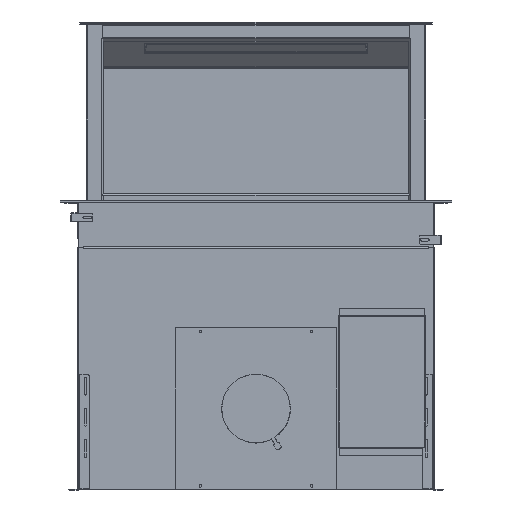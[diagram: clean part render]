
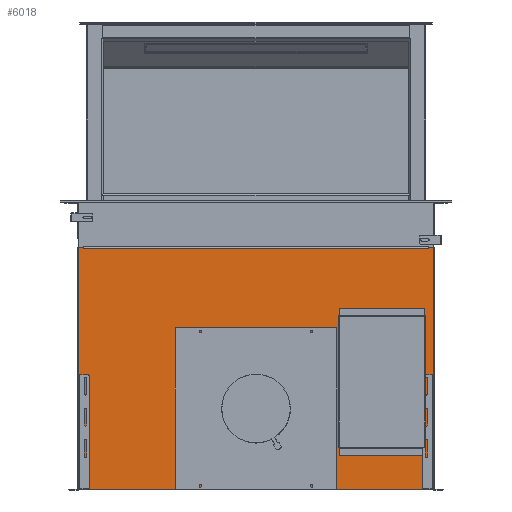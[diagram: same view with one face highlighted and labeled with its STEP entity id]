
A CAD part, top view. The second image highlights one B-rep face of the part: STEP entity #6018.
In plain terms, the highlighted planar face has unit normal (0, 0, 1).
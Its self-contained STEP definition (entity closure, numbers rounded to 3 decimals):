
#5237=DIRECTION('',(1.,0.,0.));
#5238=VECTOR('',#5237,11.85);
#5239=CARTESIAN_POINT('',(-399.3,272.95,0.));
#5240=LINE('',#5239,#5238);
#5241=DIRECTION('',(0.,1.,0.));
#5242=VECTOR('',#5241,1.6);
#5243=CARTESIAN_POINT('',(-387.45,271.35,0.));
#5244=LINE('',#5243,#5242);
#5245=DIRECTION('',(0.,1.,0.));
#5246=VECTOR('',#5245,1.6);
#5247=CARTESIAN_POINT('',(387.45,271.35,0.));
#5248=LINE('',#5247,#5246);
#5249=DIRECTION('',(1.,0.,0.));
#5250=VECTOR('',#5249,11.85);
#5251=CARTESIAN_POINT('',(387.45,272.95,0.));
#5252=LINE('',#5251,#5250);
#5253=DIRECTION('',(0.,1.,0.));
#5254=VECTOR('',#5253,327.);
#5255=CARTESIAN_POINT('',(-161.5,-253.55,0.));
#5256=LINE('',#5255,#5254);
#5257=DIRECTION('',(-1.,0.,0.));
#5258=VECTOR('',#5257,321.);
#5259=CARTESIAN_POINT('',(160.5,-254.55,0.));
#5260=LINE('',#5259,#5258);
#5261=DIRECTION('',(0.,-1.,0.));
#5262=VECTOR('',#5261,327.);
#5263=CARTESIAN_POINT('',(161.5,73.45,0.));
#5264=LINE('',#5263,#5262);
#5265=DIRECTION('',(1.,0.,0.));
#5266=VECTOR('',#5265,321.);
#5267=CARTESIAN_POINT('',(-160.5,74.45,0.));
#5268=LINE('',#5267,#5266);
#5386=DIRECTION('',(0.,1.,0.));
#5387=VECTOR('',#5386,544.3);
#5388=CARTESIAN_POINT('',(-399.3,-271.35,0.));
#5389=LINE('',#5388,#5387);
#5421=DIRECTION('',(-1.,0.,0.));
#5422=VECTOR('',#5421,798.6);
#5423=CARTESIAN_POINT('',(399.3,-271.35,0.));
#5424=LINE('',#5423,#5422);
#5484=DIRECTION('',(0.,-1.,0.));
#5485=VECTOR('',#5484,544.3);
#5486=CARTESIAN_POINT('',(399.3,272.95,0.));
#5487=LINE('',#5486,#5485);
#5655=DIRECTION('',(1.,0.,0.));
#5656=VECTOR('',#5655,774.9);
#5657=CARTESIAN_POINT('',(-387.45,271.35,0.));
#5658=LINE('',#5657,#5656);
#5753=CARTESIAN_POINT('',(160.5,-253.55,0.));
#5754=DIRECTION('',(0.,0.,-1.));
#5755=DIRECTION('',(1.,0.,0.));
#5756=AXIS2_PLACEMENT_3D('',#5753,#5754,#5755);
#5771=CARTESIAN_POINT('',(160.5,73.45,0.));
#5772=DIRECTION('',(0.,0.,-1.));
#5773=DIRECTION('',(0.,1.,0.));
#5774=AXIS2_PLACEMENT_3D('',#5771,#5772,#5773);
#5789=CARTESIAN_POINT('',(-160.5,73.45,0.));
#5790=DIRECTION('',(0.,0.,-1.));
#5791=DIRECTION('',(-1.,0.,0.));
#5792=AXIS2_PLACEMENT_3D('',#5789,#5790,#5791);
#5807=CARTESIAN_POINT('',(-160.5,-253.55,0.));
#5808=DIRECTION('',(0.,0.,-1.));
#5809=DIRECTION('',(0.,-1.,0.));
#5810=AXIS2_PLACEMENT_3D('',#5807,#5808,#5809);
#5825=CARTESIAN_POINT('',(399.3,272.95,0.));
#5826=VERTEX_POINT('',#5825);
#5843=CARTESIAN_POINT('',(-399.3,272.95,0.));
#5844=VERTEX_POINT('',#5843);
#5857=CARTESIAN_POINT('',(-399.3,-271.35,0.));
#5858=VERTEX_POINT('',#5857);
#5861=CARTESIAN_POINT('',(399.3,-271.35,0.));
#5862=VERTEX_POINT('',#5861);
#5889=CARTESIAN_POINT('',(161.5,-253.55,0.));
#5891=VERTEX_POINT('',#5889);
#5893=CARTESIAN_POINT('',(160.5,-254.55,0.));
#5895=VERTEX_POINT('',#5893);
#5897=CARTESIAN_POINT('',(-160.5,-254.55,0.));
#5899=VERTEX_POINT('',#5897);
#5901=CARTESIAN_POINT('',(-161.5,-253.55,0.));
#5903=VERTEX_POINT('',#5901);
#5905=CARTESIAN_POINT('',(-161.5,73.45,0.));
#5907=VERTEX_POINT('',#5905);
#5909=CARTESIAN_POINT('',(-160.5,74.45,0.));
#5911=VERTEX_POINT('',#5909);
#5913=CARTESIAN_POINT('',(160.5,74.45,0.));
#5915=VERTEX_POINT('',#5913);
#5917=CARTESIAN_POINT('',(161.5,73.45,0.));
#5919=VERTEX_POINT('',#5917);
#5937=CARTESIAN_POINT('',(387.45,271.35,0.));
#5938=CARTESIAN_POINT('',(387.45,272.95,0.));
#5939=VERTEX_POINT('',#5937);
#5940=VERTEX_POINT('',#5938);
#5945=CARTESIAN_POINT('',(-387.45,271.35,0.));
#5946=CARTESIAN_POINT('',(-387.45,272.95,0.));
#5947=VERTEX_POINT('',#5945);
#5948=VERTEX_POINT('',#5946);
#5977=CARTESIAN_POINT('',(0.,0.,0.));
#5978=DIRECTION('',(0.,0.,1.));
#5979=DIRECTION('',(1.,0.,0.));
#5980=AXIS2_PLACEMENT_3D('',#5977,#5978,#5979);
#5981=PLANE('',#5980);
#5983=ORIENTED_EDGE('',*,*,#5982,.T.);
#5985=ORIENTED_EDGE('',*,*,#5984,.F.);
#5987=ORIENTED_EDGE('',*,*,#5986,.T.);
#5989=ORIENTED_EDGE('',*,*,#5988,.T.);
#5991=ORIENTED_EDGE('',*,*,#5990,.T.);
#5993=ORIENTED_EDGE('',*,*,#5992,.T.);
#5995=ORIENTED_EDGE('',*,*,#5994,.T.);
#5997=ORIENTED_EDGE('',*,*,#5996,.T.);
#5998=EDGE_LOOP('',(#5983,#5985,#5987,#5989,#5991,#5993,#5995,#5997));
#5999=FACE_OUTER_BOUND('',#5998,.F.);
#6001=ORIENTED_EDGE('',*,*,#6000,.F.);
#6003=ORIENTED_EDGE('',*,*,#6002,.F.);
#6005=ORIENTED_EDGE('',*,*,#6004,.F.);
#6007=ORIENTED_EDGE('',*,*,#6006,.F.);
#6009=ORIENTED_EDGE('',*,*,#6008,.F.);
#6011=ORIENTED_EDGE('',*,*,#6010,.F.);
#6013=ORIENTED_EDGE('',*,*,#6012,.F.);
#6015=ORIENTED_EDGE('',*,*,#6014,.F.);
#6016=EDGE_LOOP('',(#6001,#6003,#6005,#6007,#6009,#6011,#6013,#6015));
#6017=FACE_BOUND('',#6016,.F.);
#6018=ADVANCED_FACE('',(#5999,#6017),#5981,.T.);
#5757=CIRCLE('',#5756,1.);
#5775=CIRCLE('',#5774,1.);
#5793=CIRCLE('',#5792,1.);
#5811=CIRCLE('',#5810,1.);
#5982=EDGE_CURVE('',#5844,#5948,#5240,.T.);
#5984=EDGE_CURVE('',#5947,#5948,#5244,.T.);
#5986=EDGE_CURVE('',#5947,#5939,#5658,.T.);
#5988=EDGE_CURVE('',#5939,#5940,#5248,.T.);
#5990=EDGE_CURVE('',#5940,#5826,#5252,.T.);
#5992=EDGE_CURVE('',#5826,#5862,#5487,.T.);
#5994=EDGE_CURVE('',#5862,#5858,#5424,.T.);
#5996=EDGE_CURVE('',#5858,#5844,#5389,.T.);
#6000=EDGE_CURVE('',#5903,#5907,#5256,.T.);
#6002=EDGE_CURVE('',#5899,#5903,#5811,.T.);
#6004=EDGE_CURVE('',#5895,#5899,#5260,.T.);
#6006=EDGE_CURVE('',#5891,#5895,#5757,.T.);
#6008=EDGE_CURVE('',#5919,#5891,#5264,.T.);
#6010=EDGE_CURVE('',#5915,#5919,#5775,.T.);
#6012=EDGE_CURVE('',#5911,#5915,#5268,.T.);
#6014=EDGE_CURVE('',#5907,#5911,#5793,.T.);
